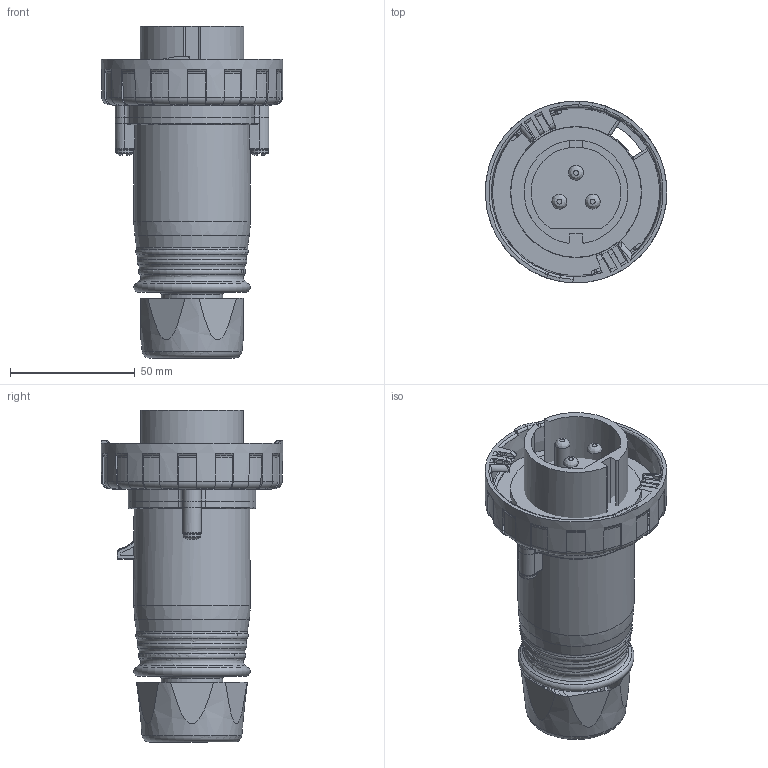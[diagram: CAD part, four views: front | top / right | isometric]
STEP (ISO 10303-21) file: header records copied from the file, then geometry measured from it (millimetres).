
FILE_DESCRIPTION(/* description */ (''),/* implementation_level */ '2;1');
FILE_NAME(/* name */ '4006068.stp',/* time_stamp */ '2017-04-20T20:01:22+02:00',/* author */ (''),/* organization */ (''),/* preprocessor_version */ 'ST-DEVELOPER v16',/* originating_system */ 'SIEMENS PLM Software NX 11.0',/* authorisation */ '');
FILE_SCHEMA (('AUTOMOTIVE_DESIGN { 1 0 10303 214 3 1 1 1 }'));
Length unit declared in the file: millimetre
Products named in the file (1): 4006068_LINKEDEXT_jt
Bounding box: 72.73 x 72.75 x 133.03 mm (x, y, z)
Surface area: 43935.3 mm2 (no closed solid volume)
Topology: 0 solids, 21 shells, 301 faces, 1008 edges, 699 vertices
Faces by surface type: plane 101, torus 87, cylinder 54, cone 39, bspline 20
Full cylindrical faces by diameter (mm): 6 x1, 7 x2, 23 x1, 24.6 x1, 46.6 x1, 62.1 x1
Entity records: 14923 total; most frequent: CARTESIAN_POINT 4548, DIRECTION 1763, ORIENTED_EDGE 1538, EDGE_CURVE 954, AXIS2_PLACEMENT_3D 712, VERTEX_POINT 679, CIRCLE 395, EDGE_LOOP 342
